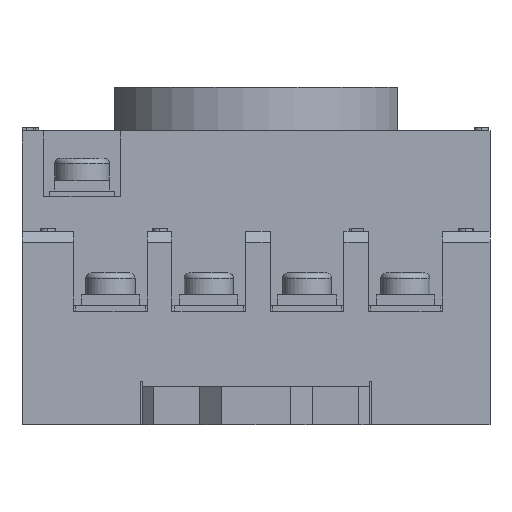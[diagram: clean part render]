
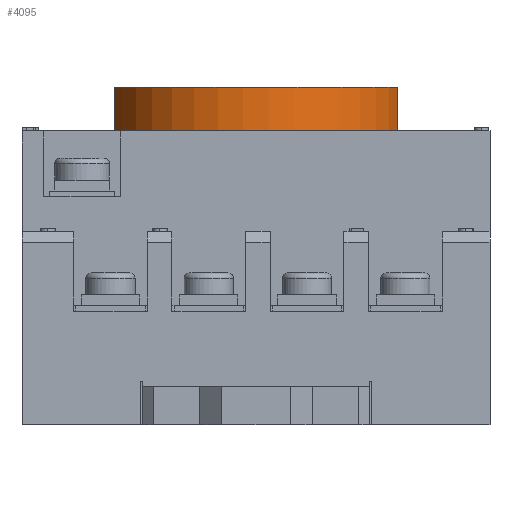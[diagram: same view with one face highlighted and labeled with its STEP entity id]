
A CAD part, front view. The second image highlights one B-rep face of the part: STEP entity #4095.
In plain terms, the highlighted cylindrical face has radius 13.5 mm (diameter 27 mm), a partial arc.
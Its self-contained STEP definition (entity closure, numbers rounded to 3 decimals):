
#1149 = EDGE_CURVE ( 'NONE', #2367, #2368, #6057, .T. ) ;
#1979 = VERTEX_POINT ( 'NONE', #8778 ) ;
#1981 = VERTEX_POINT ( 'NONE', #8780 ) ;
#2367 = VERTEX_POINT ( 'NONE', #9166 ) ;
#2368 = VERTEX_POINT ( 'NONE', #9167 ) ;
#2484 = EDGE_LOOP ( 'NONE', ( #3156, #3158, #3157, #3159 ) ) ;
#3156 = ORIENTED_EDGE ( 'NONE', *, *, #3701, .F. ) ;
#3157 = ORIENTED_EDGE ( 'NONE', *, *, #1149, .T. ) ;
#3158 = ORIENTED_EDGE ( 'NONE', *, *, #3700, .T. ) ;
#3159 = ORIENTED_EDGE ( 'NONE', *, *, #3702, .F. ) ;
#3700 = EDGE_CURVE ( 'NONE', #1981, #2367, #9605, .T. ) ;
#3701 = EDGE_CURVE ( 'NONE', #1981, #1979, #6068, .T. ) ;
#3702 = EDGE_CURVE ( 'NONE', #1979, #2368, #9611, .T. ) ;
#4095 = ADVANCED_FACE ( 'NONE', ( #17248 ), #17251, .T. ) ;
#6057 = CIRCLE ( 'NONE', #19942, 13.5 ) ;
#6068 = CIRCLE ( 'NONE', #20117, 13.5 ) ;
#7270 = CARTESIAN_POINT ( 'NONE',  ( 0., 0., 26.9 ) ) ;
#7316 = DIRECTION ( 'NONE',  ( 0., 0., 1. ) ) ;
#7317 = DIRECTION ( 'NONE',  ( 1., 0., 0. ) ) ;
#8778 = CARTESIAN_POINT ( 'NONE',  ( 13., -3.64, 30.9 ) ) ;
#8780 = CARTESIAN_POINT ( 'NONE',  ( -13., -3.64, 30.9 ) ) ;
#9166 = CARTESIAN_POINT ( 'NONE',  ( -13., -3.64, 26.9 ) ) ;
#9167 = CARTESIAN_POINT ( 'NONE',  ( 13., -3.64, 26.9 ) ) ;
#9601 = CARTESIAN_POINT ( 'NONE',  ( 0., 0., 30.9 ) ) ;
#9605 = LINE ( 'NONE', #9606, #20120 ) ;
#9606 = CARTESIAN_POINT ( 'NONE',  ( -13., -3.64, 30.9 ) ) ;
#9607 = DIRECTION ( 'NONE',  ( 0., 0., -1. ) ) ;
#9608 = DIRECTION ( 'NONE',  ( 0., 0., 1. ) ) ;
#9609 = DIRECTION ( 'NONE',  ( 1., 0., 0. ) ) ;
#9611 = LINE ( 'NONE', #9612, #20121 ) ;
#9612 = CARTESIAN_POINT ( 'NONE',  ( 13., -3.64, 30.9 ) ) ;
#9613 = DIRECTION ( 'NONE',  ( 0., 0., -1. ) ) ;
#11006 = CARTESIAN_POINT ( 'NONE',  ( 0., 0., 30.9 ) ) ;
#11007 = DIRECTION ( 'NONE',  ( 0., 0., -1. ) ) ;
#11008 = DIRECTION ( 'NONE',  ( -1., 0., 0. ) ) ;
#17248 = FACE_OUTER_BOUND ( 'NONE', #2484, .T. ) ;
#17251 = CYLINDRICAL_SURFACE ( 'NONE', #17252, 13.5 ) ;
#17252 = AXIS2_PLACEMENT_3D ( 'NONE', #11006, #11007, #11008 ) ;
#19942 = AXIS2_PLACEMENT_3D ( 'NONE', #7270, #7316, #7317 ) ;
#20117 = AXIS2_PLACEMENT_3D ( 'NONE', #9601, #9608, #9609 ) ;
#20120 = VECTOR ( 'NONE', #9607, 1000. ) ;
#20121 = VECTOR ( 'NONE', #9613, 1000. ) ;
